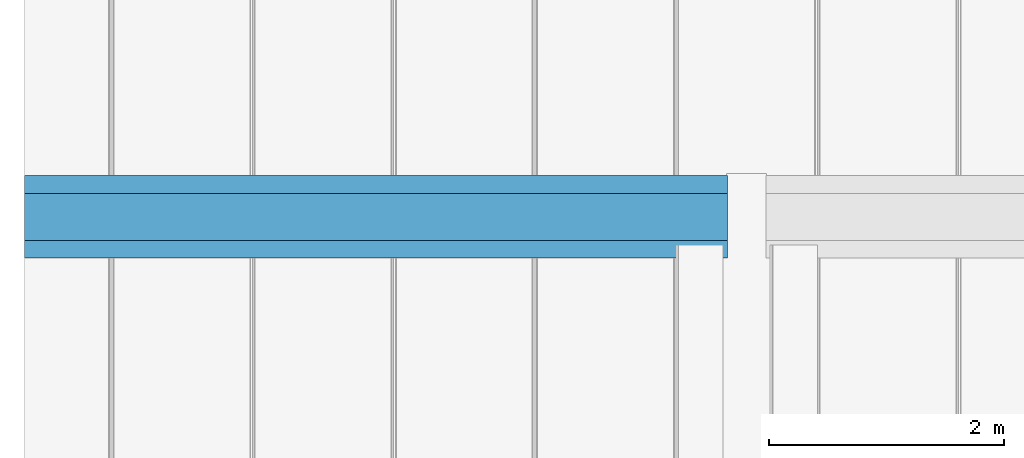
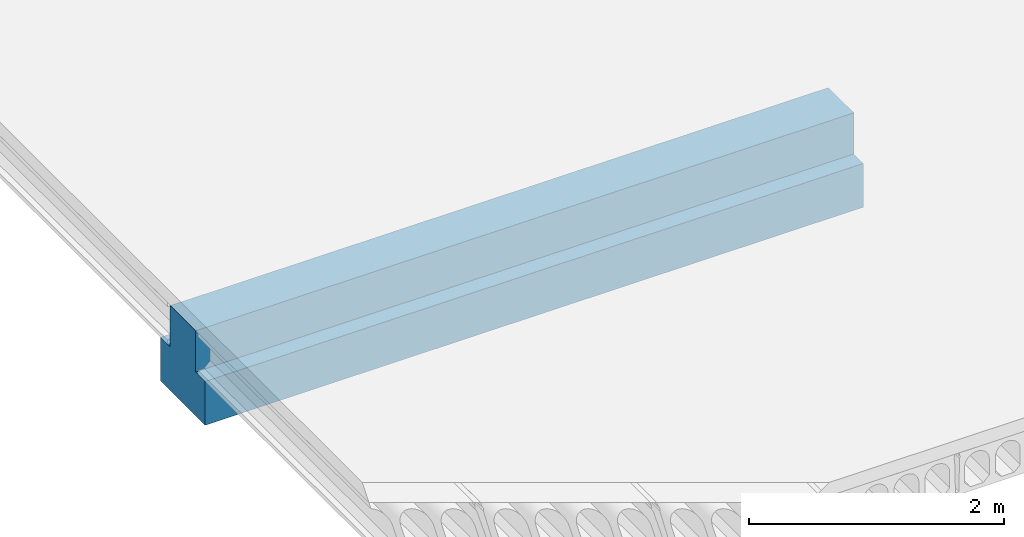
# One storey, part 10 of 98: 1 beam.
"""IFC2X3 building model written with IfcOpenShell, lengths in millimetres."""

from ifc_helpers import new_model, entity, si_unit, converted_unit, derived_unit, direction, frame, origin_with_axes, place, context, subcontext, project, spatial, faceted_brep, type_object, element, save


model = new_model("IFC2X3")

# Units and contexts
model_context = context("Model", 3, precision=0.01, world=frame((0.0, 4.29681676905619e-09, 0.0)), true_north=direction((4.01073788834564e-13, 1.0)))
plan_context = context("Plan", 3, precision=0.01, world=frame((0.0, 4.29681676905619e-09, 0.0)), true_north=direction((4.01073788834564e-13, 1.0)))
body_context = subcontext(model_context, "Body", "Model", "MODEL_VIEW")
ifc_project = project(units=[converted_unit("PLANEANGLEUNIT", "DEGREE", entity("IfcPositiveLengthMeasure", 0.0174532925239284), si_unit("PLANEANGLEUNIT", "RADIAN"), dimensions=[0, 0, 0, 0, 0, 0, 0]), si_unit("AREAUNIT", "SQUARE_METRE"), si_unit("LENGTHUNIT", "METRE", prefix="MILLI"), si_unit("MASSUNIT", "GRAM", prefix="KILO"), si_unit("POWERUNIT", "WATT"), si_unit("PRESSUREUNIT", "PASCAL"), si_unit("FORCEUNIT", "NEWTON", prefix="KILO"), si_unit("ELECTRICCURRENTUNIT", "AMPERE"), si_unit("THERMODYNAMICTEMPERATUREUNIT", "DEGREE_CELSIUS"), si_unit("TIMEUNIT", "SECOND"), si_unit("VOLUMEUNIT", "CUBIC_METRE"), derived_unit("LINEARVELOCITYUNIT", [(si_unit("LENGTHUNIT", "METRE"), 1), (si_unit("TIMEUNIT", "SECOND"), -1)]), derived_unit("VOLUMETRICFLOWRATEUNIT", [(si_unit("VOLUMEUNIT", "CUBIC_METRE"), 1), (si_unit("TIMEUNIT", "SECOND"), -1)]), derived_unit("THERMALTRANSMITTANCEUNIT", [(si_unit("POWERUNIT", "WATT"), 1), (si_unit("THERMODYNAMICTEMPERATUREUNIT", "KELVIN"), -1), (si_unit("AREAUNIT", "SQUARE_METRE"), -1)])], contexts=[model_context, plan_context])

# Site, building, storey
site_placement = place(None, frame((0.0, -4.29681676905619e-09, 0.0), z_axis=(0.0, 0.0, 1.0), x_axis=(1.0, 0.0, 0.0)))
site = spatial("IfcSite", under=ifc_project, at=site_placement, Name="Gardermoen", CompositionType="ELEMENT")
building_placement = place(site_placement, frame((0.0, 4.29681676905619e-09, 0.0), z_axis=(0.0, 0.0, 1.0), x_axis=(1.0, 0.0, 0.0)))
building = spatial("IfcBuilding", under=site, at=building_placement, Name="TS", CompositionType="ELEMENT")
storey_placement = place(building_placement, origin_with_axes())
storey = spatial("IfcBuildingStorey", under=building, at=storey_placement, Name="D", CompositionType="ELEMENT", Elevation=0.0)

# Beam
beam_type = type_object("IfcBeamType", Name="DLB400*815-700*420", PredefinedType="NOTDEFINED")
beam_placement = place(storey_placement, frame((519835.000234, 405499.995625, 203387.5), z_axis=(0.0, 0.0, 1.0), x_axis=(-0.999999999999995, -9.99999902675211e-08, 0.0)))
element("IfcBeam", 1, at=beam_placement, inside=storey, type_object=beam_type, Name="PREFABBJELKE", ObjectType="DLB400*815-700*420", context=body_context, shape_type="Brep", body=[
    faceted_brep([(0.0, 350.0, -407.5), (0.0, 350.0, 12.5), (0.0, 200.0, 12.5), (0.0, 200.0, 407.5), (0.0, -200.0, 407.5), (0.0, -200.0, 12.5), (0.0, -350.0, 12.5), (0.0, -350.0, -407.5), (5972.50028399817, 200.0, 407.5), (5972.50028399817, -200.0, 407.5), (5972.50025399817, 200.0, 12.5), (5972.50028399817, 350.0, 12.5), (5972.50026899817, 350.0, -407.5), (5972.50028399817, -350.0, -407.5), (5972.50019899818, -350.0, 12.5), (5972.50028399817, -200.0, 12.5), (5972.50018399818, 200.0, 12.5), (5972.50018399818, 350.0, 12.5), (5972.50018399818, 350.0, -407.5), (5972.50018399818, -350.0, -407.5), (5972.50018399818, -350.0, 12.5), (5972.50018399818, -200.0, 12.5), (5972.50018399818, -200.0, 407.5), (5972.50018399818, 200.0, 407.5)], [[[0, 1, 2, 3, 4, 5, 6, 7]], [[8, 9, 4, 3]], [[10, 8, 3, 2]], [[11, 10, 2, 1]], [[12, 11, 1, 0]], [[13, 12, 0, 7]], [[14, 13, 7, 6]], [[15, 14, 6, 5]], [[9, 15, 5, 4]], [[16, 17, 18, 19, 20, 21, 22, 23]]], orient=[[False], [False], [False], [False], [False], [False], [False], [False], [False], [False]]),
])

save(model, "model.ifc")
